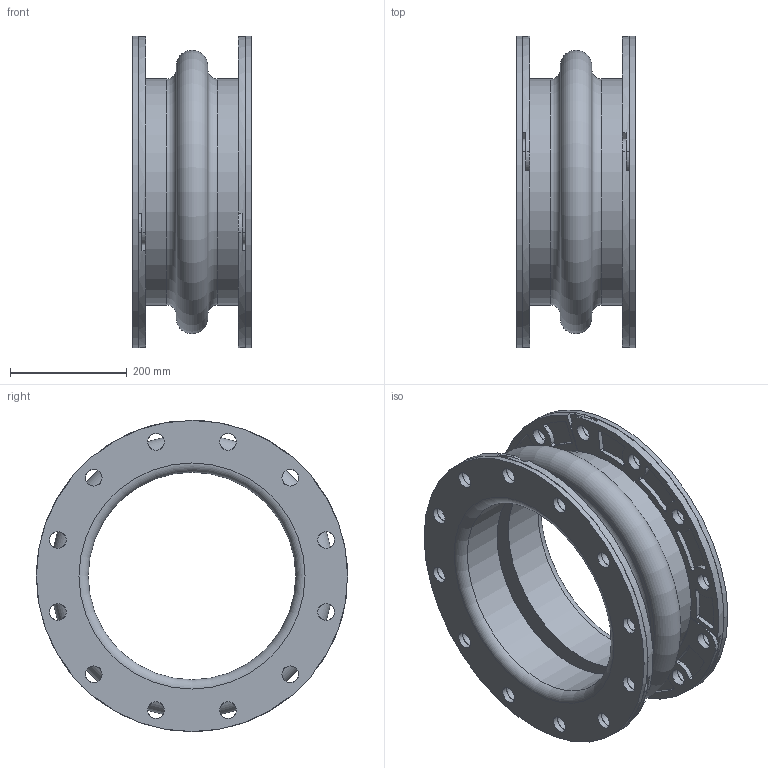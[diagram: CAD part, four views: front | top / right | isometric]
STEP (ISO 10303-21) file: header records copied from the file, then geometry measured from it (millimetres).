
FILE_DESCRIPTION(/* description */ (''),/* implementation_level */ '2;1');
FILE_NAME(/* name */ 'C:\001_Work\Designs\Mercer2014\MQInventor2014\RajR\500 Style\501\New folder\501 14IDx8FF.stp',/* time_stamp */ '2016-03-26T14:25:37-04:00',/* author */ ('rramoutar'),/* organization */ ('Mason Industries Inc.'),/* preprocessor_version */ 'ST-DEVELOPER v15.6',/* originating_system */ 'Autodesk Inventor 2015',/* authorisation */ '');
FILE_SCHEMA (('CONFIG_CONTROL_DESIGN'));
Length unit declared in the file: inch
Products named in the file (1): 501 14IDx8FF
Bounding box: 203.2 x 533.4 x 533.4 mm (x, y, z)
Volume: 8997711.2 mm3; surface area: 1645954.7 mm2
Topology: 3 solids, 3 shells, 366 faces, 992 edges, 654 vertices
Faces by surface type: cylinder 266, plane 88, torus 8, cone 4
Full cylindrical faces by diameter (mm): 28.575 x48, 355.6 x2, 387.35 x2, 400.05 x2, 533.4 x2
Entity records: 12016 total; most frequent: DIRECTION 2230, CARTESIAN_POINT 1929, ORIENTED_EDGE 1832, AXIS2_PLACEMENT_3D 947, EDGE_CURVE 916, VERTEX_POINT 646, CIRCLE 580, EDGE_LOOP 558
